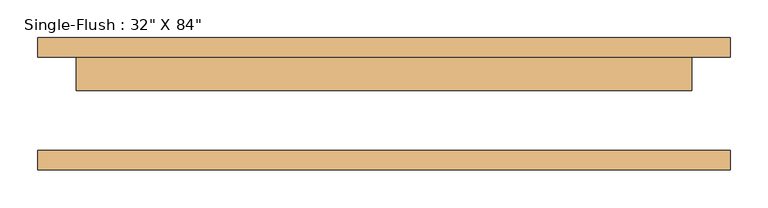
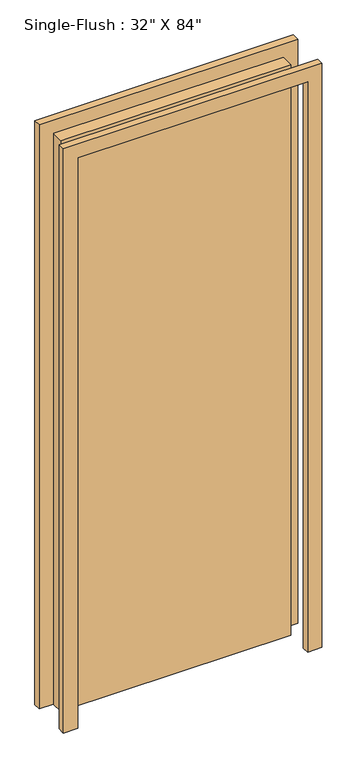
"""IFC4 building model written with IfcOpenShell, lengths in millimetres: door geometry."""

import ifcopenshell
import ifcopenshell.guid

model = None  # the IFC model being written
_history = None  # IfcOwnerHistory: only IFC2X3 demands one
_inside = {}  # id of a spatial element -> (the spatial element, [elements in it])
_under = {}  # id of a project, library or spatial element -> (it, [spatial elements below it])
_declared = {}  # id of a project -> (the project, [libraries it declares])
_typed = {}  # id of a type object -> (the type object, [elements of that type])
_made_of = {}  # id of a material, layer set ... -> (it, [elements and type objects made of it])


def new_model(schema):
    """Start an empty IFC model of exactly this schema.

    Asked for "IFC4X3", IfcOpenShell would pick the latest addendum, in which some entities
    have other attributes; the version numbers below select the first issue.
    IFC2X3 requires an IfcOwnerHistory on every rooted entity: one is made here for all.
    """
    global model, _history
    if schema == "IFC4X3":
        model = ifcopenshell.file(schema_version=(4, 3, 0, 0))
    else:
        model = ifcopenshell.file(schema=schema)
    _inside.clear()
    _under.clear()
    _declared.clear()
    _typed.clear()
    _made_of.clear()
    _history = None
    if model.schema == "IFC2X3":
        org = make("IfcOrganization", Name="unknown")
        user = make(
            "IfcPersonAndOrganization",
            ThePerson=make("IfcPerson", FamilyName="unknown"),
            TheOrganization=org,
        )
        app = make(
            "IfcApplication",
            ApplicationDeveloper=org,
            Version="unknown",
            ApplicationFullName="unknown",
            ApplicationIdentifier="unknown",
        )
        _history = make(
            "IfcOwnerHistory",
            OwningUser=user,
            OwningApplication=app,
            ChangeAction="ADDED",
            CreationDate=0,
        )
    return model


def make(cls, **values):
    """One entity of the class cls with the attributes given. An attribute that is None is left unset."""
    return model.create_entity(
        cls, **{name: value for name, value in values.items() if value is not None}
    )


def rooted(cls, **values):
    """An entity with a GlobalId (a new one), such as an element, a storey or a relation."""
    return make(cls, GlobalId=ifcopenshell.guid.new(), OwnerHistory=_history, **values)


def si_unit(unit_type, name, prefix=None):
    """IfcSIUnit, for example si_unit("LENGTHUNIT", "METRE", prefix="MILLI")."""
    return make("IfcSIUnit", UnitType=unit_type, Prefix=prefix, Name=name)


def assignment(units):
    """IfcUnitAssignment: the units of a project."""
    return None if units is None else make("IfcUnitAssignment", Units=units)


def point(xyz):
    """IfcCartesianPoint."""
    return None if xyz is None else make("IfcCartesianPoint", Coordinates=xyz)


def direction(xyz):
    """IfcDirection."""
    return None if xyz is None else make("IfcDirection", DirectionRatios=xyz)


def frame(location, z_axis=None, x_axis=None):
    """IfcAxis2Placement3D, a coordinate frame: its origin and axes. An axis left out is left unset."""
    return make(
        "IfcAxis2Placement3D",
        Location=point(location),
        Axis=direction(z_axis),
        RefDirection=direction(x_axis),
    )


def origin():
    """The frame at (0, 0, 0) with its axes left unset."""
    return frame((0.0, 0.0, 0.0))


def origin_with_axes():
    """The frame at (0, 0, 0) with the z axis (0, 0, 1) and the x axis (1, 0, 0) written out."""
    return frame((0.0, 0.0, 0.0), z_axis=(0.0, 0.0, 1.0), x_axis=(1.0, 0.0, 0.0))


def place(relative_to, where):
    """IfcLocalPlacement: puts the frame where relative to a parent placement (None: the world)."""
    return make(
        "IfcLocalPlacement", PlacementRelTo=relative_to, RelativePlacement=where
    )


def context(
    kind, dimensions, precision=None, world=None, true_north=None, identifier=None
):
    """IfcGeometricRepresentationContext, for example the 3D "Model" context."""
    return make(
        "IfcGeometricRepresentationContext",
        ContextIdentifier=identifier,
        ContextType=kind,
        CoordinateSpaceDimension=dimensions,
        Precision=precision,
        WorldCoordinateSystem=world,
        TrueNorth=true_north,
    )


def project(units=None, contexts=None):
    """IfcProject with its units and contexts."""
    return rooted(
        "IfcProject",
        Name="project",
        RepresentationContexts=contexts,
        UnitsInContext=assignment(units),
    )


def spatial(cls, under=None, at=None, **own):
    """A site, building, storey or space (cls), placed at a placement, below another one or the project."""
    s = rooted(cls, ObjectPlacement=at, **own)
    if under is not None:
        _under.setdefault(under.id(), (under, []))[1].append(s)
    return s


def polyline(points):
    """IfcPolyline through the points."""
    return make("IfcPolyline", Points=[point(p) for p in points])


def outline(outer, holes=None, kind="AREA"):
    """IfcArbitraryClosedProfileDef: a profile drawn as a closed curve; with holes, ...WithVoids."""
    if holes is None:
        return make("IfcArbitraryClosedProfileDef", ProfileType=kind, OuterCurve=outer)
    return make(
        "IfcArbitraryProfileDefWithVoids",
        ProfileType=kind,
        OuterCurve=outer,
        InnerCurves=holes,
    )


def extrude(swept, where, along, depth):
    """IfcExtrudedAreaSolid: the profile swept, set in the frame where, extruded along a direction by depth."""
    return make(
        "IfcExtrudedAreaSolid",
        SweptArea=swept,
        Position=where,
        ExtrudedDirection=direction(along),
        Depth=depth,
    )


def shape(context_of_items, identifier, shape_type, items):
    """IfcShapeRepresentation: the items that make up one representation, for example the "Body"."""
    return make(
        "IfcShapeRepresentation",
        ContextOfItems=context_of_items,
        RepresentationIdentifier=identifier,
        RepresentationType=shape_type,
        Items=items,
    )


def source(mapping_origin, context_of_items, identifier, shape_type, items):
    """IfcRepresentationMap: a shape defined once, which mapped items show again and again."""
    return make(
        "IfcRepresentationMap",
        MappingOrigin=mapping_origin,
        MappedRepresentation=shape(context_of_items, identifier, shape_type, items),
    )


def transform(
    local_origin,
    x_axis=None,
    y_axis=None,
    z_axis=None,
    scale=None,
    scale2=None,
    scale3=None,
    uniform=True,
):
    """IfcCartesianTransformationOperator3D, or its non-uniform kind. x_axis, y_axis, z_axis: its Axis1, 2, 3."""
    if uniform:
        return make(
            "IfcCartesianTransformationOperator3D",
            Axis1=direction(x_axis),
            Axis2=direction(y_axis),
            LocalOrigin=point(local_origin),
            Scale=scale,
            Axis3=direction(z_axis),
        )
    return make(
        "IfcCartesianTransformationOperator3DnonUniform",
        Axis1=direction(x_axis),
        Axis2=direction(y_axis),
        LocalOrigin=point(local_origin),
        Scale=scale,
        Axis3=direction(z_axis),
        Scale2=scale2,
        Scale3=scale3,
    )


def mapped(mapping_source, mapping_target):
    """IfcMappedItem: shows the shape of a source again, moved by a transform."""
    return make(
        "IfcMappedItem", MappingSource=mapping_source, MappingTarget=mapping_target
    )


def made_of(thing, what):
    """Note that an element or type object is made of a material, layer set ...; save() writes the relation."""
    if what is not None:
        _made_of.setdefault(what.id(), (what, []))[1].append(thing)
    return thing


def element(
    cls,
    number,
    at=None,
    inside=None,
    cuts=None,
    type_object=None,
    material=None,
    context=None,
    identifier="Body",
    shape_type=None,
    held_by="IfcProductDefinitionShape",
    body=None,
    shapes=None,
    **own,
):
    """One element of the class cls, such as IfcWall. Its Tag is "e" and its number.

    at: its placement. inside: the storey or other place that contains it. cuts: it is an
    opening in that element (IfcRelVoidsElement). A single representation is given by context,
    identifier, shape_type and body (its items); several are given by shapes. held_by: the class
    of the entity that holds the representations. save() writes the other relations.
    """
    e = rooted(cls, Tag="e%d" % number, ObjectPlacement=at, **own)
    if body is not None:
        shapes = [shape(context, identifier, shape_type, body)]
    if shapes is not None:
        e.Representation = make(held_by, Representations=shapes)
    if inside is not None:
        _inside.setdefault(inside.id(), (inside, []))[1].append(e)
    if cuts is not None:
        rooted(
            "IfcRelVoidsElement", RelatingBuildingElement=cuts, RelatedOpeningElement=e
        )
    if type_object is not None:
        _typed.setdefault(type_object.id(), (type_object, []))[1].append(e)
    return made_of(e, material)


def aggregate(whole, parts):
    """IfcRelAggregates: a whole, such as a stair, and the parts it consists of."""
    return rooted("IfcRelAggregates", RelatingObject=whole, RelatedObjects=parts)


def save(model, path):
    """Write the relations noted so far, then the file.

    IfcRelAggregates (storeys below a building ...), IfcRelContainedInSpatialStructure (elements
    in a storey), IfcRelDefinesByType, IfcRelAssociatesMaterial and IfcRelDeclares: one each for
    every whole, place, type object, material and project.
    """
    for whole, parts in _under.values():
        aggregate(whole, parts)
    for where, things in _inside.values():
        rooted(
            "IfcRelContainedInSpatialStructure",
            RelatedElements=things,
            RelatingStructure=where,
        )
    for kind, things in _typed.values():
        rooted("IfcRelDefinesByType", RelatedObjects=things, RelatingType=kind)
    for what, things in _made_of.values():
        rooted("IfcRelAssociatesMaterial", RelatedObjects=things, RelatingMaterial=what)
    for by, libraries in _declared.values():
        rooted("IfcRelDeclares", RelatingContext=by, RelatedDefinitions=libraries)
    model.write(path)


def door_dc1527fd(model_context):
    return source(origin(), model_context, "Body", "SweptSolid", [
        extrude(outline(polyline([(2184.4, -457.2), (0.0, -457.2), (0.0, -406.4), (2133.6, -406.4), (2133.6, 406.4), (0.0, 406.4), (0.0, 457.2), (2184.4, 457.2), (2184.4, -457.2)])), frame((0.0, 61.9125, 0.0), z_axis=(0.0, 1.0, 0.0), x_axis=(0.0, 0.0, 1.0)), (0.0, 0.0, 1.0), 25.4),
        extrude(outline(polyline([(2184.4, 457.2), (2184.4, -457.2), (0.0, -457.2), (0.0, -406.4), (2133.6, -406.4), (2133.6, 406.4), (0.0, 406.4), (0.0, 457.2), (2184.4, 457.2)])), frame((0.0, -87.3125, 0.0), z_axis=(0.0, 1.0, 0.0), x_axis=(0.0, 0.0, 1.0)), (0.0, 0.0, 1.0), 25.4),
        extrude(outline(polyline([(406.4, 17.4625), (-406.4, 17.4625), (-406.4, 61.9125), (406.4, 61.9125), (406.4, 17.4625)])), origin_with_axes(), (0.0, 0.0, 1.0), 2133.6),
    ])


if __name__ == "__main__":
    model = new_model("IFC4")
    model_context = context("Model", 3, world=origin())
    ifc_project = project(units=[si_unit("LENGTHUNIT", "METRE", prefix="MILLI")], contexts=[model_context])
    site = spatial("IfcSite", under=ifc_project)
    building = spatial("IfcBuilding", under=site)
    placement = place(None, origin())
    door_shape = door_dc1527fd(model_context)
    element("IfcDoor", 1, ObjectType="Single-Flush : 32\" X 84\"", at=placement, inside=building, context=model_context, shape_type="MappedRepresentation", body=[
        mapped(door_shape, transform((0.0, 0.0, 0.0), x_axis=(1.0, 0.0, 0.0), y_axis=(0.0, 1.0, 0.0), z_axis=(0.0, 0.0, 1.0))),
    ])
    save(model, "model.ifc")
